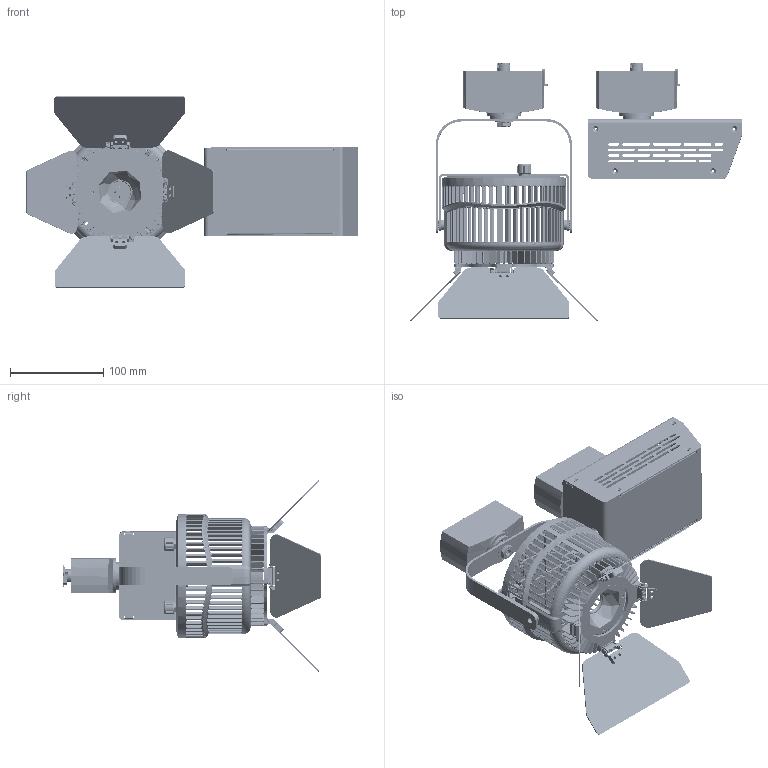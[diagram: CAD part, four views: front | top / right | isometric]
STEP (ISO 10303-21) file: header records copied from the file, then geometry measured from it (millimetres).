
FILE_DESCRIPTION (( 'STEP AP214' ), '1' );
FILE_NAME ('W500BD-TJ-PS.STEP', '2024-02-01T19:13:01', ( '' ), ( '' ), 'SwSTEP 2.0', 'SolidWorks 2022', '' );
FILE_SCHEMA (( 'AUTOMOTIVE_DESIGN' ));
Length unit declared in the file: millimetre
Products named in the file (42): 5020734-XXX_A3_Spacer, Hinge, Barn Door_-001_Black; 5020757-001_A1_VR Nut, Kessil A360 Aquarium Light___; 5020655-012_A4_Hinge, Assembly, Barndoor Video Light, Pitch7.4, Black_01; 5020893-3211020005_ _Flat Washer Customized, Nylon Black, ID11mm OD20mm T0.5mm___; 5120539-XXX_A1_Housing, OD=133, ID=121, T=78.1mm, For Reflector, Without Logo___; 5022443-002_A1_JUNO Trac Transfer Parts B___; 5020757-002_A2_VR Washer, Kessil A360 Aquarium Light___; 5022445-XXX_A1_DC Plug for W Series, D=12mm_-002(Black); 5022398-XXX_A1_Plug for W Series, 19x10x9.4mm_-002(Black); 5022185_A3_Frame, T=1.5mm AL5052 Black, 24x20x65.15mm___; 5021287_A2_Toothed Lock Washer M6, OD11 ID6.4 T0.55, SUS___; 5047587-XXX_A1_Pendant Adapter for Juno Trac-Master (T Series)_Finish_2; 5010177-XXX_A2_Assembly BOM, Kessil W500_55D-BD-[TEX]; 62432-11100100140040_ _Hex Nuts Customized, M10 P1.0 S14 T4 W-Zinc___; 5022189_A1_Plate, OD=48, ID=23, T=2.0mm___; 5022447-XXX_A2_W Series, 15F YOKE PART-B, 146.2x122.5x20mm___; 5022348-104_ _Toothed Washer Series, M3___; 5120529-XXX_A1_Assembly BOM, W500 Light Engine_Finish; 5021924_A2_BOLT SCREW, M3.0, L=19.2MM___; 62280-1313006_ _SCREW, M3x6mmL, PAN HEAD TORX WITH THREAD LOCK___; 5120530-XXX_A1_Assembly BOM, W500 Reflector Type_Reflector - 55D-BD; 5020921-XXX_A5_Spacer, Pitch 7.4, Light Shielding, Barn Door___; 5022341-XXX_A1_Minor Leaf of 3 inch Barndoor, L96, W77, T1.1___; 5022424-XXX_A2_250W Power Box Cover (TG&TEX-PS&CLP&TJ TYPE), 165x92x62.5(H)mm___; 5022443-001_A1_JUNO Trac Transfer Parts A___; 62280-1343006_ _SCREW, PAN HEAD TROX W-THD LOCK, SUS-410, BLACK, M3xL6mm___; 5022427-XXX_A4_250W Power Box FRAME (TG&TEX&CLP TYPE), 165x95x64mm___; 5120540-XXX_A1_Rear Panel, OD=133, T=13.65mm, W-Series_5120531-001 W500; 5020655-011_A4_Hinge, Assembly, Barndoor Video Light, Pitch6.0, Black_01; W500BD-TJ-PS; 5120519-XXX_A3_Assembly BOM, Kessil W500 Power Box_TON(US)-PS; 5022358-1051452003_ _Wave Spring Washer, ID10.5 OD14.5 H2.0 T0.3, Black___; 5022667-XXX_A1_Holder, Barn Door Frame For W-Series, OD=107, T=3mm___; 5120531-XXX_A4_Assembly BOM, Light Mounting Type for Yoke_TEX; 5021926-XXX_A2_KNOB, 18T, OD=14.9, ID=6, L=10MM_C1; 62280-1363006_ _SCREW, M3x6mmL, PAN HEAD TORX WITH THREAD LOCK___; 5020919-XXX_A5_Spacer, Pitch 6.0, Light Shielding, Barn Door___; 5022452-001_A3_Reflector Sink Holder, D108x14.35(H)mm (-002 is White)_-001(Black); 5022446-XXX_A2_W Series, 15F YOKE PART-A, 140x62x18mm___; 5120561_A1_Frame, T=1.5mm AL5052 Black, 17.5x20x65.15mm___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
Assembly tree (63 placements, depth 4):
  W500BD-TJ-PS
    5120519-XXX_A3_Assembly BOM, Kessil W500 Power Box_TON(US)-PS
      5022427-XXX_A4_250W Power Box FRAME (TG&TEX&CLP TYPE), 165x95x64mm___
      5047587-XXX_A1_Pendant Adapter for Juno Trac-Master (T Series)_Finish_2
      5022443-001_A1_JUNO Trac Transfer Parts A___
      5022443-002_A1_JUNO Trac Transfer Parts B___
      5022424-XXX_A2_250W Power Box Cover (TG&TEX-PS&CLP&TJ TYPE), 165x92x62.5(H)mm___
    5010177-XXX_A2_Assembly BOM, Kessil W500_55D-BD-[TEX]
      5120529-XXX_A1_Assembly BOM, W500 Light Engine_Finish
        5120540-XXX_A1_Rear Panel, OD=133, T=13.65mm, W-Series_5120531-001 W500
        5022398-XXX_A1_Plug for W Series, 19x10x9.4mm_-002(Black)
        5022445-XXX_A1_DC Plug for W Series, D=12mm_-002(Black)
        5022185_A3_Frame, T=1.5mm AL5052 Black, 24x20x65.15mm___
        5120561_A1_Frame, T=1.5mm AL5052 Black, 17.5x20x65.15mm___
        5022348-104_ _Toothed Washer Series, M3___  x2
        62280-1313006_ _SCREW, M3x6mmL, PAN HEAD TORX WITH THREAD LOCK___  x4
        5021924_A2_BOLT SCREW, M3.0, L=19.2MM___  x2
        5020757-002_A2_VR Washer, Kessil A360 Aquarium Light___  x2
        5020757-001_A1_VR Nut, Kessil A360 Aquarium Light___  x2
        5021926-XXX_A2_KNOB, 18T, OD=14.9, ID=6, L=10MM_C1  x2
        62280-1363006_ _SCREW, M3x6mmL, PAN HEAD TORX WITH THREAD LOCK___  x2
      5120530-XXX_A1_Assembly BOM, W500 Reflector Type_Reflector - 55D-BD
        5120539-XXX_A1_Housing, OD=133, ID=121, T=78.1mm, For Reflector, Without Logo___
        5022189_A1_Plate, OD=48, ID=23, T=2.0mm___
        62280-1343006_ _SCREW, PAN HEAD TROX W-THD LOCK, SUS-410, BLACK, M3xL6mm___  x2
        5022452-001_A3_Reflector Sink Holder, D108x14.35(H)mm (-002 is White)_-001(Black)
        5021948_A1_Narrow Reflector, OD=54, T=15.6MM___
        5020655-011_A4_Hinge, Assembly, Barndoor Video Light, Pitch6.0, Black_01  x2
        5020919-XXX_A5_Spacer, Pitch 6.0, Light Shielding, Barn Door___  x2
        5022341-XXX_A1_Minor Leaf of 3 inch Barndoor, L96, W77, T1.1___  x2
        5020655-012_A4_Hinge, Assembly, Barndoor Video Light, Pitch7.4, Black_01  x2
        5020921-XXX_A5_Spacer, Pitch 7.4, Light Shielding, Barn Door___  x2
        5020734-XXX_A3_Spacer, Hinge, Barn Door_-001_Black  x2
        5022340-XXX_A1_Major Leaf of 3 inch Barndoor, L140, W77, T1.1___  x2
        5022667-XXX_A1_Holder, Barn Door Frame For W-Series, OD=107, T=3mm___
      5120531-XXX_A4_Assembly BOM, Light Mounting Type for Yoke_TEX
        5022447-XXX_A2_W Series, 15F YOKE PART-B, 146.2x122.5x20mm___
        5022446-XXX_A2_W Series, 15F YOKE PART-A, 140x62x18mm___
        5021287_A2_Toothed Lock Washer M6, OD11 ID6.4 T0.55, SUS___  x2
        5022358-1051452003_ _Wave Spring Washer, ID10.5 OD14.5 H2.0 T0.3, Black___
        5020893-3211020005_ _Flat Washer Customized, Nylon Black, ID11mm OD20mm T0.5mm___  x2
        62432-11100100140040_ _Hex Nuts Customized, M10 P1.0 S14 T4 W-Zinc___
        5047587-XXX_A1_Pendant Adapter for Juno Trac-Master (T Series)_Finish_2
        5022443-001_A1_JUNO Trac Transfer Parts A___
        5022443-002_A1_JUNO Trac Transfer Parts B___
Bounding box: 356.18 x 277.64 x 205.95 mm (x, y, z)
Volume: 421331.7 mm3; surface area: 497974.8 mm2
Topology: 85 solids, 85 shells, 8339 faces, 22796 edges, 14534 vertices
Faces by surface type: plane 3087, cylinder 3032, bspline 1185, cone 612, torus 411, sphere 12
Entity records: 296463 total; most frequent: CARTESIAN_POINT 129013, ORIENTED_EDGE 37038, DIRECTION 30471, EDGE_CURVE 18519, VERTEX_POINT 11798, AXIS2_PLACEMENT_3D 11218, VECTOR 8035, LINE 8035
